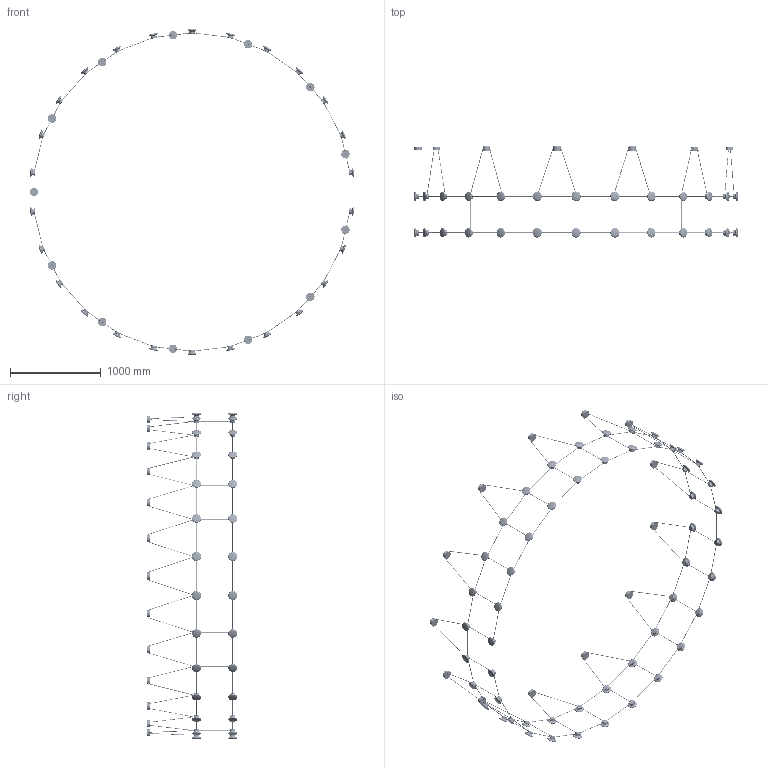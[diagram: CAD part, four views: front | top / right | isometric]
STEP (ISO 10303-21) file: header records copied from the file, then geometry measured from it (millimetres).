
FILE_DESCRIPTION (( 'STEP AP203' ), '1' );
FILE_NAME ('FBN08.LS03.AF01.R00 - Render.STEP', '2026-05-07T15:08:04', ( '' ), ( '' ), 'SwSTEP 2.0', 'SolidWorks 2025', '' );
FILE_SCHEMA (( 'CONFIG_CONTROL_DESIGN' ));
Length unit declared in the file: millimetre
Products named in the file (22): serrated lock washer 1_1_din_DIN 6798-J4.3; FBN08.LS01.C014.R00_Default<A macchina>; FBN08.LS01.C090.R00; FBN08.LS01.C001.R00; FBN08.LS01.C009.R00_Default<A macchina>; FBN08.LS01.C012.R00; FBN08.LS01.C010.R00; FBN08.LS01.AM02.R00; FBN08.LS01.C015.R00; FBN08.LS01.C091.R00; FBN08.LS01.AM03.R00; FBN08.LS01.AM04.R00; FBN08.LS01.AM01.R00; FBN08.LS03.AF01.R00 - Render; FBN08.LS01.AM05.R00; Nipplo A_NIPPLO M10x1 H.7 NERO; FBN08.LS01.C016.R00; FBN08.LS01.AM06.R00; Modulo Led Star CV EA CL196-DB; FBN08.LS01.C004.R00
Assembly tree (193 placements, depth 4):
  FBN08.LS03.AF01.R00 - Render
    FBN08.LS01.AM03.R00  x13
      serrated lock washer 1_1_din_DIN 6798-J4.3
      Nipplo A_NIPPLO M10x1 H.7 NERO
      FBN08.LS01.C014.R00_Default<A macchina>
      FBN08.LS01.C009.R00_Default<A macchina>
    FBN08.LS01.C090.R00  x26
    FBN08.LS01.AM02.R00
      FBN08.LS01.C001.R00
      FBN08.LS01.AM01.R00
        FBN08.LS01.C004.R00
      Modulo Led Star CV EA CL196-DB
    FBN08.LS01.AM02.R00  x25
      FBN08.LS01.C001.R00
      FBN08.LS01.AM01.R00
        FBN08.LS01.C004.R00
      FBN08.LS01.C012.R00
      Modulo Led Star CV EA CL196-DB
    FBN08.LS01.AM06.R00  x52
      FBN08.LS01.AM05.R00
        FBN08.LS01.C010.R00
        FBN08.LS01.C016.R00
    FBN08.LS01.AM04.R00
      FBN08.LS01.C015.R00
      FBN08.LS01.AM01.R00
        FBN08.LS01.C004.R00
      Modulo Led Star CV EA CL196-DB
    FBN08.LS01.C091.R00  x26
    FBN08.LS01.AM04.R00  x25
      FBN08.LS01.C015.R00
      FBN08.LS01.AM01.R00
        FBN08.LS01.C004.R00
      FBN08.LS01.C012.R00
      Modulo Led Star CV EA CL196-DB
Bounding box: 3575.57 x 998.98 x 3596.24 mm (x, y, z)
Volume: 6115775.8 mm3; surface area: 4928289 mm2
Topology: 479 solids, 479 shells, 16974 faces, 42510 edges, 27014 vertices
Faces by surface type: plane 7710, cylinder 6170, torus 1170, cone 1144, bspline 572, sphere 208
Entity records: 25923 total; most frequent: CARTESIAN_POINT 6306, DIRECTION 2913, ORIENTED_EDGE 2446, EDGE_CURVE 1223, AXIS2_PLACEMENT_3D 1147, VERTEX_POINT 790, LINE 619, VECTOR 619
